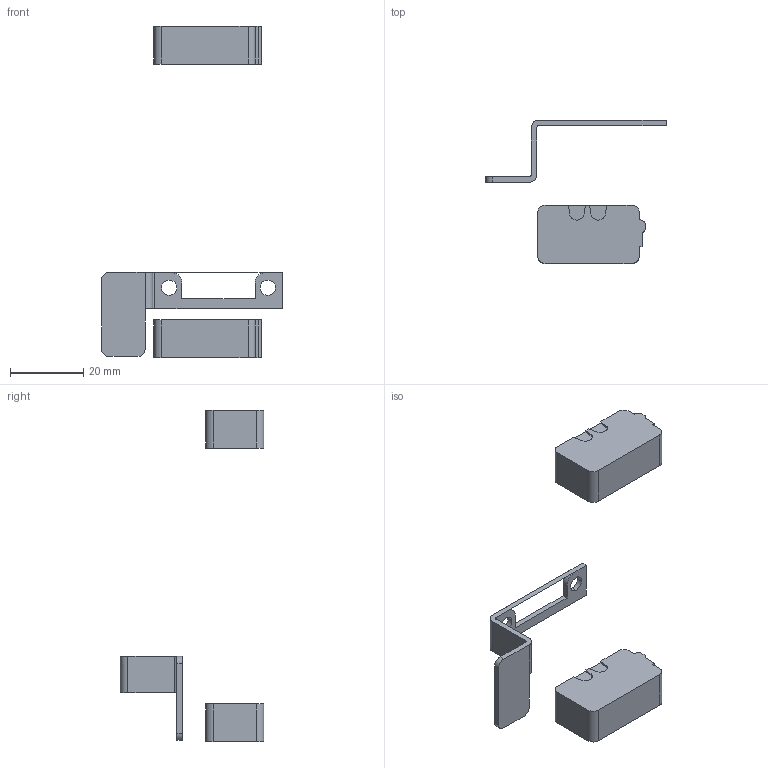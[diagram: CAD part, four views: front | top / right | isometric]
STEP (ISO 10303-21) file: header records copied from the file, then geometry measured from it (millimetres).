
FILE_DESCRIPTION(('CAx-IF Rec.Pracs.---Model Styling and Organization---1.2---2011-12-15','CAx-IF Rec.Pracs.---Geometric and Assembly Validation Properties---4.1---2014-06-16','CAx-IF Rec.Pracs.---PMI Polyline Presentation---2.0---2013-05-24'),'2;1');
FILE_NAME('R5M2WMS.stp','2021-05-05T12:43:42+03:00',(''),(''),'STEP Interface 4.4 by CT CoreTechnologie','3D_Evolution4.4 by CT CoreTechnologie','');
FILE_SCHEMA(('AUTOMOTIVE_DESIGN { 1 0 10303 214 1 1 1 1 }'));
Length unit declared in the file: millimetre
Products named in the file (4): R5M2WMS; RB.1496.00.00.0; CNTD CMV103D_-00; 20504_01
Assembly tree (4 placements, depth 3):
  R5M2WMS
    RB.1496.00.00.0
    CNTD CMV103D_-00  x2
      20504_01
Bounding box: 49.5 x 39.3 x 90.6 mm (x, y, z)
Surface area: 5204.8 mm2 (no closed solid volume)
Topology: 0 solids, 3 shells, 96 faces, 270 edges, 176 vertices
Faces by surface type: plane 63, cylinder 33
Entity records: 2231 total; most frequent: DIRECTION 362, CARTESIAN_POINT 361, ORIENTED_EDGE 352, EDGE_CURVE 178, VECTOR 132, LINE 132, AXIS2_PLACEMENT_3D 115, VERTEX_POINT 114
